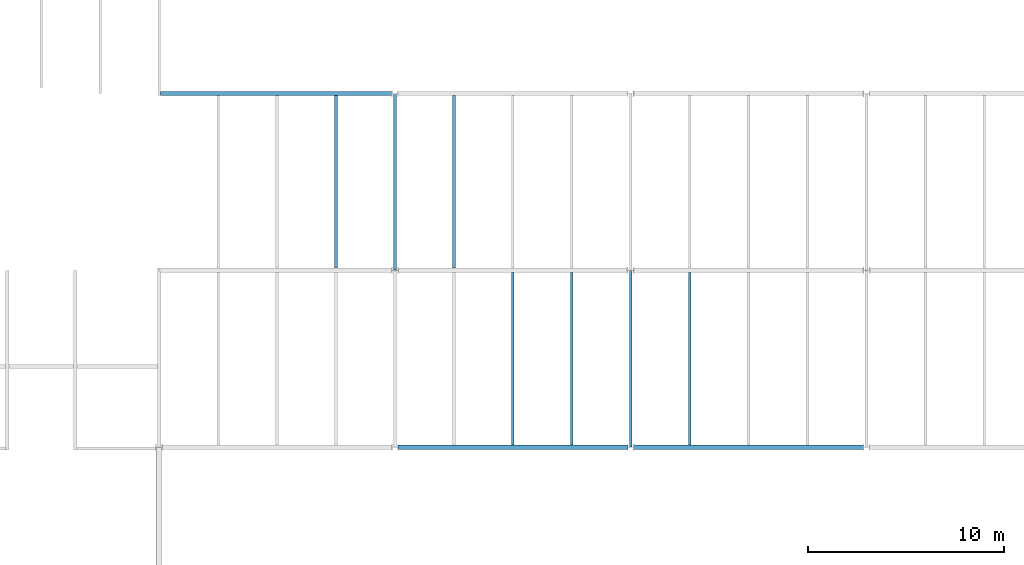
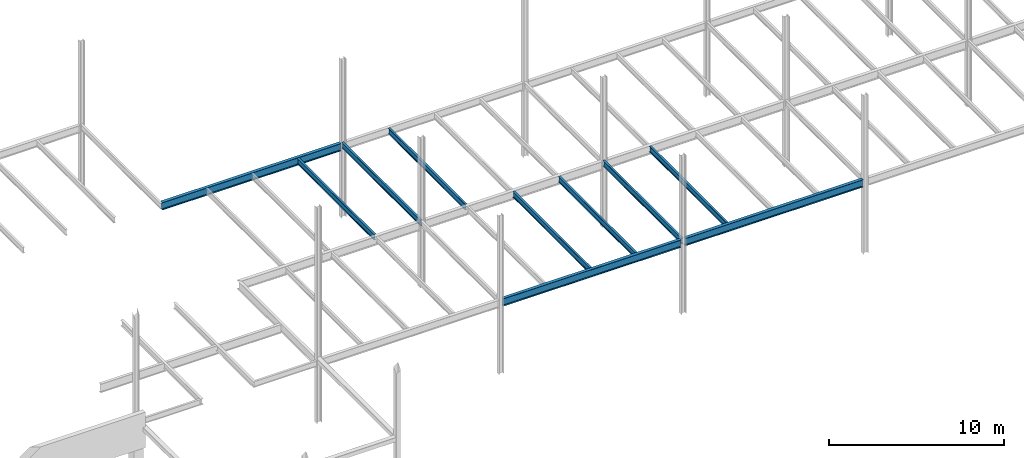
# One storey, part 13 of 19: 10 beams.
"""IFC2X3 building model written with IfcOpenShell, lengths in millimetres."""

from ifc_helpers import new_model, si_unit, origin, place, context, project, spatial, faceted_brep, material, element, save


model = new_model("IFC2X3")

# Units and contexts
context_of_model = context(None, 3, precision=1e-05, world=origin())
ifc_project = project(units=[si_unit("LENGTHUNIT", "METRE", prefix="MILLI")], contexts=[context_of_model])

# Building, storey
building = spatial("IfcBuilding", under=ifc_project, Name="Building", CompositionType="ELEMENT")
storey = spatial("IfcBuildingStorey", under=building, Name="FL2-FRM", CompositionType="ELEMENT")

# Beams
ifc_material_1 = material(Name="A992")
beam_1_placement = place(None, origin())
element("IfcBeam", 1, at=beam_1_placement, inside=storey, material=ifc_material_1, Name="B502", context=context_of_model, shape_type="Brep", body=[
    faceted_brep([(30070.0, 9104.5, 3974.0), (29930.0, 9104.5, 3974.0), (29930.0, 17885.5, 3974.0), (30070.0, 17885.5, 3974.0), (29930.0, 9104.5, 3982.8), (29930.0, 17885.5, 3982.8), (29986.6, 9104.5, 3982.8), (29986.6, 17885.5, 3982.8), (29989.2, 9104.5, 3983.15), (29989.2, 17885.5, 3983.15), (29991.7, 9104.5, 3984.17), (29991.7, 17885.5, 3984.17), (29993.8, 9104.5, 3985.79), (29993.8, 17885.5, 3985.79), (29995.4, 9104.5, 3987.9), (29995.4, 17885.5, 3987.9), (29996.5, 9104.5, 3990.36), (29996.5, 17885.5, 3990.36), (29996.8, 9104.5, 3993.0), (29996.8, 17885.5, 3993.0), (29996.8, 9104.5, 4354.0), (29996.8, 17885.5, 4354.0), (29996.5, 9104.5, 4356.64), (29996.5, 17885.5, 4356.64), (29995.4, 9104.5, 4359.1), (29995.4, 17885.5, 4359.1), (29993.8, 9104.5, 4361.21), (29993.8, 17885.5, 4361.21), (29991.7, 9104.5, 4362.83), (29991.7, 17885.5, 4362.83), (29989.2, 9104.5, 4363.85), (29989.2, 17885.5, 4363.85), (29986.6, 9104.5, 4364.2), (29986.6, 17885.5, 4364.2), (29930.0, 9104.5, 4364.2), (29930.0, 17885.5, 4364.2), (29930.0, 9104.5, 4373.0), (29930.0, 17885.5, 4373.0), (30070.0, 9104.5, 4373.0), (30070.0, 17885.5, 4373.0), (30070.0, 9104.5, 4364.2), (30070.0, 17885.5, 4364.2), (30013.4, 9104.5, 4364.2), (30013.4, 17885.5, 4364.2), (30010.8, 9104.5, 4363.85), (30010.8, 17885.5, 4363.85), (30008.3, 9104.5, 4362.83), (30008.3, 17885.5, 4362.83), (30006.2, 9104.5, 4361.21), (30006.2, 17885.5, 4361.21), (30004.6, 9104.5, 4359.1), (30004.6, 17885.5, 4359.1), (30003.5, 9104.5, 4356.64), (30003.5, 17885.5, 4356.64), (30003.2, 9104.5, 4354.0), (30003.2, 17885.5, 4354.0), (30003.2, 9104.5, 3993.0), (30003.2, 17885.5, 3993.0), (30003.5, 9104.5, 3990.36), (30003.5, 17885.5, 3990.36), (30004.6, 9104.5, 3987.9), (30004.6, 17885.5, 3987.9), (30006.2, 9104.5, 3985.79), (30006.2, 17885.5, 3985.79), (30008.3, 9104.5, 3984.17), (30008.3, 17885.5, 3984.17), (30010.8, 9104.5, 3983.15), (30010.8, 17885.5, 3983.15), (30013.4, 9104.5, 3982.8), (30013.4, 17885.5, 3982.8), (30070.0, 9104.5, 3982.8), (30070.0, 17885.5, 3982.8)], [[[0, 1, 2, 3]], [[1, 4, 5, 2]], [[4, 6, 7, 5]], [[6, 8, 9, 7]], [[8, 10, 11, 9]], [[10, 12, 13, 11]], [[12, 14, 15, 13]], [[14, 16, 17, 15]], [[16, 18, 19, 17]], [[18, 20, 21, 19]], [[20, 22, 23, 21]], [[22, 24, 25, 23]], [[24, 26, 27, 25]], [[26, 28, 29, 27]], [[28, 30, 31, 29]], [[30, 32, 33, 31]], [[32, 34, 35, 33]], [[34, 36, 37, 35]], [[36, 38, 39, 37]], [[38, 40, 41, 39]], [[40, 42, 43, 41]], [[42, 44, 45, 43]], [[44, 46, 47, 45]], [[46, 48, 49, 47]], [[48, 50, 51, 49]], [[50, 52, 53, 51]], [[52, 54, 55, 53]], [[54, 56, 57, 55]], [[56, 58, 59, 57]], [[58, 60, 61, 59]], [[60, 62, 63, 61]], [[62, 64, 65, 63]], [[64, 66, 67, 65]], [[66, 68, 69, 67]], [[68, 70, 71, 69]], [[70, 0, 3, 71]], [[0, 70, 68, 66, 64, 62, 60, 58, 56, 54, 52, 50, 48, 46, 44, 42, 40, 38, 36, 34, 32, 30, 28, 26, 24, 22, 20, 18, 16, 14, 12, 10, 8, 6, 4, 1]], [[3, 2, 5, 7, 9, 11, 13, 15, 17, 19, 21, 23, 25, 27, 29, 31, 33, 35, 37, 39, 41, 43, 45, 47, 49, 51, 53, 55, 57, 59, 61, 63, 65, 67, 69, 71]]]),
])
ifc_material_2 = material(Name="A992")
beam_2_placement = place(None, origin())
element("IfcBeam", 2, at=beam_2_placement, inside=storey, material=ifc_material_2, Name="B503", context=context_of_model, shape_type="Brep", body=[
    faceted_brep([(33070.0, 9104.5, 3974.0), (32930.0, 9104.5, 3974.0), (32930.0, 17885.5, 3974.0), (33070.0, 17885.5, 3974.0), (32930.0, 9104.5, 3982.8), (32930.0, 17885.5, 3982.8), (32986.6, 9104.5, 3982.8), (32986.6, 17885.5, 3982.8), (32989.2, 9104.5, 3983.15), (32989.2, 17885.5, 3983.15), (32991.7, 9104.5, 3984.17), (32991.7, 17885.5, 3984.17), (32993.8, 9104.5, 3985.79), (32993.8, 17885.5, 3985.79), (32995.4, 9104.5, 3987.9), (32995.4, 17885.5, 3987.9), (32996.5, 9104.5, 3990.36), (32996.5, 17885.5, 3990.36), (32996.8, 9104.5, 3993.0), (32996.8, 17885.5, 3993.0), (32996.8, 9104.5, 4354.0), (32996.8, 17885.5, 4354.0), (32996.5, 9104.5, 4356.64), (32996.5, 17885.5, 4356.64), (32995.4, 9104.5, 4359.1), (32995.4, 17885.5, 4359.1), (32993.8, 9104.5, 4361.21), (32993.8, 17885.5, 4361.21), (32991.7, 9104.5, 4362.83), (32991.7, 17885.5, 4362.83), (32989.2, 9104.5, 4363.85), (32989.2, 17885.5, 4363.85), (32986.6, 9104.5, 4364.2), (32986.6, 17885.5, 4364.2), (32930.0, 9104.5, 4364.2), (32930.0, 17885.5, 4364.2), (32930.0, 9104.5, 4373.0), (32930.0, 17885.5, 4373.0), (33070.0, 9104.5, 4373.0), (33070.0, 17885.5, 4373.0), (33070.0, 9104.5, 4364.2), (33070.0, 17885.5, 4364.2), (33013.4, 9104.5, 4364.2), (33013.4, 17885.5, 4364.2), (33010.8, 9104.5, 4363.85), (33010.8, 17885.5, 4363.85), (33008.3, 9104.5, 4362.83), (33008.3, 17885.5, 4362.83), (33006.2, 9104.5, 4361.21), (33006.2, 17885.5, 4361.21), (33004.6, 9104.5, 4359.1), (33004.6, 17885.5, 4359.1), (33003.5, 9104.5, 4356.64), (33003.5, 17885.5, 4356.64), (33003.2, 9104.5, 4354.0), (33003.2, 17885.5, 4354.0), (33003.2, 9104.5, 3993.0), (33003.2, 17885.5, 3993.0), (33003.5, 9104.5, 3990.36), (33003.5, 17885.5, 3990.36), (33004.6, 9104.5, 3987.9), (33004.6, 17885.5, 3987.9), (33006.2, 9104.5, 3985.79), (33006.2, 17885.5, 3985.79), (33008.3, 9104.5, 3984.17), (33008.3, 17885.5, 3984.17), (33010.8, 9104.5, 3983.15), (33010.8, 17885.5, 3983.15), (33013.4, 9104.5, 3982.8), (33013.4, 17885.5, 3982.8), (33070.0, 9104.5, 3982.8), (33070.0, 17885.5, 3982.8)], [[[0, 1, 2, 3]], [[1, 4, 5, 2]], [[4, 6, 7, 5]], [[6, 8, 9, 7]], [[8, 10, 11, 9]], [[10, 12, 13, 11]], [[12, 14, 15, 13]], [[14, 16, 17, 15]], [[16, 18, 19, 17]], [[18, 20, 21, 19]], [[20, 22, 23, 21]], [[22, 24, 25, 23]], [[24, 26, 27, 25]], [[26, 28, 29, 27]], [[28, 30, 31, 29]], [[30, 32, 33, 31]], [[32, 34, 35, 33]], [[34, 36, 37, 35]], [[36, 38, 39, 37]], [[38, 40, 41, 39]], [[40, 42, 43, 41]], [[42, 44, 45, 43]], [[44, 46, 47, 45]], [[46, 48, 49, 47]], [[48, 50, 51, 49]], [[50, 52, 53, 51]], [[52, 54, 55, 53]], [[54, 56, 57, 55]], [[56, 58, 59, 57]], [[58, 60, 61, 59]], [[60, 62, 63, 61]], [[62, 64, 65, 63]], [[64, 66, 67, 65]], [[66, 68, 69, 67]], [[68, 70, 71, 69]], [[70, 0, 3, 71]], [[0, 70, 68, 66, 64, 62, 60, 58, 56, 54, 52, 50, 48, 46, 44, 42, 40, 38, 36, 34, 32, 30, 28, 26, 24, 22, 20, 18, 16, 14, 12, 10, 8, 6, 4, 1]], [[3, 2, 5, 7, 9, 11, 13, 15, 17, 19, 21, 23, 25, 27, 29, 31, 33, 35, 37, 39, 41, 43, 45, 47, 49, 51, 53, 55, 57, 59, 61, 63, 65, 67, 69, 71]]]),
])
ifc_material_3 = material(Name="A992")
beam_3_placement = place(None, origin())
element("IfcBeam", 3, at=beam_3_placement, inside=storey, material=ifc_material_3, Name="B508", context=context_of_model, shape_type="Brep", body=[
    faceted_brep([(39070.0, 9104.5, 3974.0), (38930.0, 9104.5, 3974.0), (38930.0, 17885.5, 3974.0), (39070.0, 17885.5, 3974.0), (38930.0, 9104.5, 3982.8), (38930.0, 17885.5, 3982.8), (38986.6, 9104.5, 3982.8), (38986.6, 17885.5, 3982.8), (38989.2, 9104.5, 3983.15), (38989.2, 17885.5, 3983.15), (38991.7, 9104.5, 3984.17), (38991.7, 17885.5, 3984.17), (38993.8, 9104.5, 3985.79), (38993.8, 17885.5, 3985.79), (38995.4, 9104.5, 3987.9), (38995.4, 17885.5, 3987.9), (38996.5, 9104.5, 3990.36), (38996.5, 17885.5, 3990.36), (38996.8, 9104.5, 3993.0), (38996.8, 17885.5, 3993.0), (38996.8, 9104.5, 4354.0), (38996.8, 17885.5, 4354.0), (38996.5, 9104.5, 4356.64), (38996.5, 17885.5, 4356.64), (38995.4, 9104.5, 4359.1), (38995.4, 17885.5, 4359.1), (38993.8, 9104.5, 4361.21), (38993.8, 17885.5, 4361.21), (38991.7, 9104.5, 4362.83), (38991.7, 17885.5, 4362.83), (38989.2, 9104.5, 4363.85), (38989.2, 17885.5, 4363.85), (38986.6, 9104.5, 4364.2), (38986.6, 17885.5, 4364.2), (38930.0, 9104.5, 4364.2), (38930.0, 17885.5, 4364.2), (38930.0, 9104.5, 4373.0), (38930.0, 17885.5, 4373.0), (39070.0, 9104.5, 4373.0), (39070.0, 17885.5, 4373.0), (39070.0, 9104.5, 4364.2), (39070.0, 17885.5, 4364.2), (39013.4, 9104.5, 4364.2), (39013.4, 17885.5, 4364.2), (39010.8, 9104.5, 4363.85), (39010.8, 17885.5, 4363.85), (39008.3, 9104.5, 4362.83), (39008.3, 17885.5, 4362.83), (39006.2, 9104.5, 4361.21), (39006.2, 17885.5, 4361.21), (39004.6, 9104.5, 4359.1), (39004.6, 17885.5, 4359.1), (39003.5, 9104.5, 4356.64), (39003.5, 17885.5, 4356.64), (39003.2, 9104.5, 4354.0), (39003.2, 17885.5, 4354.0), (39003.2, 9104.5, 3993.0), (39003.2, 17885.5, 3993.0), (39003.5, 9104.5, 3990.36), (39003.5, 17885.5, 3990.36), (39004.6, 9104.5, 3987.9), (39004.6, 17885.5, 3987.9), (39006.2, 9104.5, 3985.79), (39006.2, 17885.5, 3985.79), (39008.3, 9104.5, 3984.17), (39008.3, 17885.5, 3984.17), (39010.8, 9104.5, 3983.15), (39010.8, 17885.5, 3983.15), (39013.4, 9104.5, 3982.8), (39013.4, 17885.5, 3982.8), (39070.0, 9104.5, 3982.8), (39070.0, 17885.5, 3982.8)], [[[0, 1, 2, 3]], [[1, 4, 5, 2]], [[4, 6, 7, 5]], [[6, 8, 9, 7]], [[8, 10, 11, 9]], [[10, 12, 13, 11]], [[12, 14, 15, 13]], [[14, 16, 17, 15]], [[16, 18, 19, 17]], [[18, 20, 21, 19]], [[20, 22, 23, 21]], [[22, 24, 25, 23]], [[24, 26, 27, 25]], [[26, 28, 29, 27]], [[28, 30, 31, 29]], [[30, 32, 33, 31]], [[32, 34, 35, 33]], [[34, 36, 37, 35]], [[36, 38, 39, 37]], [[38, 40, 41, 39]], [[40, 42, 43, 41]], [[42, 44, 45, 43]], [[44, 46, 47, 45]], [[46, 48, 49, 47]], [[48, 50, 51, 49]], [[50, 52, 53, 51]], [[52, 54, 55, 53]], [[54, 56, 57, 55]], [[56, 58, 59, 57]], [[58, 60, 61, 59]], [[60, 62, 63, 61]], [[62, 64, 65, 63]], [[64, 66, 67, 65]], [[66, 68, 69, 67]], [[68, 70, 71, 69]], [[70, 0, 3, 71]], [[0, 70, 68, 66, 64, 62, 60, 58, 56, 54, 52, 50, 48, 46, 44, 42, 40, 38, 36, 34, 32, 30, 28, 26, 24, 22, 20, 18, 16, 14, 12, 10, 8, 6, 4, 1]], [[3, 2, 5, 7, 9, 11, 13, 15, 17, 19, 21, 23, 25, 27, 29, 31, 33, 35, 37, 39, 41, 43, 45, 47, 49, 51, 53, 55, 57, 59, 61, 63, 65, 67, 69, 71]]]),
])
ifc_material_4 = material(Name="A992")
beam_4_placement = place(None, origin())
element("IfcBeam", 4, at=beam_4_placement, inside=storey, material=ifc_material_4, Name="B511", context=context_of_model, shape_type="Brep", body=[
    faceted_brep([(36070.0, 9004.95, 3974.0), (35930.0, 9004.95, 3974.0), (35930.0, 17991.0, 3974.0), (36070.0, 17991.0, 3974.0), (35930.0, 9004.95, 3982.8), (35930.0, 17991.0, 3982.8), (35986.6, 9004.95, 3982.8), (35986.6, 17991.0, 3982.8), (35989.2, 9004.95, 3983.15), (35989.2, 17991.0, 3983.15), (35991.7, 9004.95, 3984.17), (35991.7, 17991.0, 3984.17), (35993.8, 9004.95, 3985.79), (35993.8, 17991.0, 3985.79), (35995.4, 9004.95, 3987.9), (35995.4, 17991.0, 3987.9), (35996.5, 9004.95, 3990.36), (35996.5, 17991.0, 3990.36), (35996.8, 9004.95, 3993.0), (35996.8, 17991.0, 3993.0), (35996.8, 9004.95, 4354.0), (35996.8, 17991.0, 4354.0), (35996.5, 9004.95, 4356.64), (35996.5, 17991.0, 4356.64), (35995.4, 9004.95, 4359.1), (35995.4, 17991.0, 4359.1), (35993.8, 9004.95, 4361.21), (35993.8, 17991.0, 4361.21), (35991.7, 9004.95, 4362.83), (35991.7, 17991.0, 4362.83), (35989.2, 9004.95, 4363.85), (35989.2, 17991.0, 4363.85), (35986.6, 9004.95, 4364.2), (35986.6, 17991.0, 4364.2), (35930.0, 9004.95, 4364.2), (35930.0, 17991.0, 4364.2), (35930.0, 9004.95, 4373.0), (35930.0, 17991.0, 4373.0), (36070.0, 9004.95, 4373.0), (36070.0, 17991.0, 4373.0), (36070.0, 9004.95, 4364.2), (36070.0, 17991.0, 4364.2), (36013.4, 9004.95, 4364.2), (36013.4, 17991.0, 4364.2), (36010.8, 9004.95, 4363.85), (36010.8, 17991.0, 4363.85), (36008.3, 9004.95, 4362.83), (36008.3, 17991.0, 4362.83), (36006.2, 9004.95, 4361.21), (36006.2, 17991.0, 4361.21), (36004.6, 9004.95, 4359.1), (36004.6, 17991.0, 4359.1), (36003.5, 9004.95, 4356.64), (36003.5, 17991.0, 4356.64), (36003.2, 9004.95, 4354.0), (36003.2, 17991.0, 4354.0), (36003.2, 9004.95, 3993.0), (36003.2, 17991.0, 3993.0), (36003.5, 9004.95, 3990.36), (36003.5, 17991.0, 3990.36), (36004.6, 9004.95, 3987.9), (36004.6, 17991.0, 3987.9), (36006.2, 9004.95, 3985.79), (36006.2, 17991.0, 3985.79), (36008.3, 9004.95, 3984.17), (36008.3, 17991.0, 3984.17), (36010.8, 9004.95, 3983.15), (36010.8, 17991.0, 3983.15), (36013.4, 9004.95, 3982.8), (36013.4, 17991.0, 3982.8), (36070.0, 9004.95, 3982.8), (36070.0, 17991.0, 3982.8)], [[[0, 1, 2, 3]], [[1, 4, 5, 2]], [[4, 6, 7, 5]], [[6, 8, 9, 7]], [[8, 10, 11, 9]], [[10, 12, 13, 11]], [[12, 14, 15, 13]], [[14, 16, 17, 15]], [[16, 18, 19, 17]], [[18, 20, 21, 19]], [[20, 22, 23, 21]], [[22, 24, 25, 23]], [[24, 26, 27, 25]], [[26, 28, 29, 27]], [[28, 30, 31, 29]], [[30, 32, 33, 31]], [[32, 34, 35, 33]], [[34, 36, 37, 35]], [[36, 38, 39, 37]], [[38, 40, 41, 39]], [[40, 42, 43, 41]], [[42, 44, 45, 43]], [[44, 46, 47, 45]], [[46, 48, 49, 47]], [[48, 50, 51, 49]], [[50, 52, 53, 51]], [[52, 54, 55, 53]], [[54, 56, 57, 55]], [[56, 58, 59, 57]], [[58, 60, 61, 59]], [[60, 62, 63, 61]], [[62, 64, 65, 63]], [[64, 66, 67, 65]], [[66, 68, 69, 67]], [[68, 70, 71, 69]], [[70, 0, 3, 71]], [[0, 70, 68, 66, 64, 62, 60, 58, 56, 54, 52, 50, 48, 46, 44, 42, 40, 38, 36, 34, 32, 30, 28, 26, 24, 22, 20, 18, 16, 14, 12, 10, 8, 6, 4, 1]], [[3, 2, 5, 7, 9, 11, 13, 15, 17, 19, 21, 23, 25, 27, 29, 31, 33, 35, 37, 39, 41, 43, 45, 47, 49, 51, 53, 55, 57, 59, 61, 63, 65, 67, 69, 71]]]),
])
ifc_material_5 = material(Name="A992")
beam_5_placement = place(None, origin())
element("IfcBeam", 5, at=beam_5_placement, inside=storey, material=ifc_material_5, Name="B524", context=context_of_model, shape_type="Brep", body=[
    faceted_brep([(26930.0, 26895.5, 3974.0), (27070.0, 26895.5, 3974.0), (27070.0, 18114.5, 3974.0), (26930.0, 18114.5, 3974.0), (27070.0, 26895.5, 3982.8), (27070.0, 18114.5, 3982.8), (27013.4, 26895.5, 3982.8), (27013.4, 18114.5, 3982.8), (27010.8, 26895.5, 3983.15), (27010.8, 18114.5, 3983.15), (27008.3, 26895.5, 3984.17), (27008.3, 18114.5, 3984.17), (27006.2, 26895.5, 3985.79), (27006.2, 18114.5, 3985.79), (27004.6, 26895.5, 3987.9), (27004.6, 18114.5, 3987.9), (27003.5, 26895.5, 3990.36), (27003.5, 18114.5, 3990.36), (27003.2, 26895.5, 3993.0), (27003.2, 18114.5, 3993.0), (27003.2, 26895.5, 4354.0), (27003.2, 18114.5, 4354.0), (27003.5, 26895.5, 4356.64), (27003.5, 18114.5, 4356.64), (27004.6, 26895.5, 4359.1), (27004.6, 18114.5, 4359.1), (27006.2, 26895.5, 4361.21), (27006.2, 18114.5, 4361.21), (27008.3, 26895.5, 4362.83), (27008.3, 18114.5, 4362.83), (27010.8, 26895.5, 4363.85), (27010.8, 18114.5, 4363.85), (27013.4, 26895.5, 4364.2), (27013.4, 18114.5, 4364.2), (27070.0, 26895.5, 4364.2), (27070.0, 18114.5, 4364.2), (27070.0, 26895.5, 4373.0), (27070.0, 18114.5, 4373.0), (26930.0, 26895.5, 4373.0), (26930.0, 18114.5, 4373.0), (26930.0, 26895.5, 4364.2), (26930.0, 18114.5, 4364.2), (26986.6, 26895.5, 4364.2), (26986.6, 18114.5, 4364.2), (26989.2, 26895.5, 4363.85), (26989.2, 18114.5, 4363.85), (26991.7, 26895.5, 4362.83), (26991.7, 18114.5, 4362.83), (26993.8, 26895.5, 4361.21), (26993.8, 18114.5, 4361.21), (26995.4, 26895.5, 4359.1), (26995.4, 18114.5, 4359.1), (26996.5, 26895.5, 4356.64), (26996.5, 18114.5, 4356.64), (26996.8, 26895.5, 4354.0), (26996.8, 18114.5, 4354.0), (26996.8, 26895.5, 3993.0), (26996.8, 18114.5, 3993.0), (26996.5, 26895.5, 3990.36), (26996.5, 18114.5, 3990.36), (26995.4, 26895.5, 3987.9), (26995.4, 18114.5, 3987.9), (26993.8, 26895.5, 3985.79), (26993.8, 18114.5, 3985.79), (26991.7, 26895.5, 3984.17), (26991.7, 18114.5, 3984.17), (26989.2, 26895.5, 3983.15), (26989.2, 18114.5, 3983.15), (26986.6, 26895.5, 3982.8), (26986.6, 18114.5, 3982.8), (26930.0, 26895.5, 3982.8), (26930.0, 18114.5, 3982.8)], [[[0, 1, 2, 3]], [[1, 4, 5, 2]], [[4, 6, 7, 5]], [[6, 8, 9, 7]], [[8, 10, 11, 9]], [[10, 12, 13, 11]], [[12, 14, 15, 13]], [[14, 16, 17, 15]], [[16, 18, 19, 17]], [[18, 20, 21, 19]], [[20, 22, 23, 21]], [[22, 24, 25, 23]], [[24, 26, 27, 25]], [[26, 28, 29, 27]], [[28, 30, 31, 29]], [[30, 32, 33, 31]], [[32, 34, 35, 33]], [[34, 36, 37, 35]], [[36, 38, 39, 37]], [[38, 40, 41, 39]], [[40, 42, 43, 41]], [[42, 44, 45, 43]], [[44, 46, 47, 45]], [[46, 48, 49, 47]], [[48, 50, 51, 49]], [[50, 52, 53, 51]], [[52, 54, 55, 53]], [[54, 56, 57, 55]], [[56, 58, 59, 57]], [[58, 60, 61, 59]], [[60, 62, 63, 61]], [[62, 64, 65, 63]], [[64, 66, 67, 65]], [[66, 68, 69, 67]], [[68, 70, 71, 69]], [[70, 0, 3, 71]], [[0, 70, 68, 66, 64, 62, 60, 58, 56, 54, 52, 50, 48, 46, 44, 42, 40, 38, 36, 34, 32, 30, 28, 26, 24, 22, 20, 18, 16, 14, 12, 10, 8, 6, 4, 1]], [[3, 2, 5, 7, 9, 11, 13, 15, 17, 19, 21, 23, 25, 27, 29, 31, 33, 35, 37, 39, 41, 43, 45, 47, 49, 51, 53, 55, 57, 59, 61, 63, 65, 67, 69, 71]]]),
])
ifc_material_6 = material(Name="A992")
beam_6_placement = place(None, origin())
element("IfcBeam", 6, at=beam_6_placement, inside=storey, material=ifc_material_6, Name="B527", context=context_of_model, shape_type="Brep", body=[
    faceted_brep([(24070.0, 18009.0, 3974.0), (23930.0, 18009.0, 3974.0), (23930.0, 26995.1, 3974.0), (24070.0, 26995.1, 3974.0), (23930.0, 18009.0, 3982.8), (23930.0, 26995.1, 3982.8), (23986.6, 18009.0, 3982.8), (23986.6, 26995.1, 3982.8), (23989.2, 18009.0, 3983.15), (23989.2, 26995.1, 3983.15), (23991.7, 18009.0, 3984.17), (23991.7, 26995.1, 3984.17), (23993.8, 18009.0, 3985.79), (23993.8, 26995.1, 3985.79), (23995.4, 18009.0, 3987.9), (23995.4, 26995.1, 3987.9), (23996.5, 18009.0, 3990.36), (23996.5, 26995.1, 3990.36), (23996.8, 18009.0, 3993.0), (23996.8, 26995.1, 3993.0), (23996.8, 18009.0, 4354.0), (23996.8, 26995.1, 4354.0), (23996.5, 18009.0, 4356.64), (23996.5, 26995.1, 4356.64), (23995.4, 18009.0, 4359.1), (23995.4, 26995.1, 4359.1), (23993.8, 18009.0, 4361.21), (23993.8, 26995.1, 4361.21), (23991.7, 18009.0, 4362.83), (23991.7, 26995.1, 4362.83), (23989.2, 18009.0, 4363.85), (23989.2, 26995.1, 4363.85), (23986.6, 18009.0, 4364.2), (23986.6, 26995.1, 4364.2), (23930.0, 18009.0, 4364.2), (23930.0, 26995.1, 4364.2), (23930.0, 18009.0, 4373.0), (23930.0, 26995.1, 4373.0), (24070.0, 18009.0, 4373.0), (24070.0, 26995.1, 4373.0), (24070.0, 18009.0, 4364.2), (24070.0, 26995.1, 4364.2), (24013.4, 18009.0, 4364.2), (24013.4, 26995.1, 4364.2), (24010.8, 18009.0, 4363.85), (24010.8, 26995.1, 4363.85), (24008.3, 18009.0, 4362.83), (24008.3, 26995.1, 4362.83), (24006.2, 18009.0, 4361.21), (24006.2, 26995.1, 4361.21), (24004.6, 18009.0, 4359.1), (24004.6, 26995.1, 4359.1), (24003.5, 18009.0, 4356.64), (24003.5, 26995.1, 4356.64), (24003.2, 18009.0, 4354.0), (24003.2, 26995.1, 4354.0), (24003.2, 18009.0, 3993.0), (24003.2, 26995.1, 3993.0), (24003.5, 18009.0, 3990.36), (24003.5, 26995.1, 3990.36), (24004.6, 18009.0, 3987.9), (24004.6, 26995.1, 3987.9), (24006.2, 18009.0, 3985.79), (24006.2, 26995.1, 3985.79), (24008.3, 18009.0, 3984.17), (24008.3, 26995.1, 3984.17), (24010.8, 18009.0, 3983.15), (24010.8, 26995.1, 3983.15), (24013.4, 18009.0, 3982.8), (24013.4, 26995.1, 3982.8), (24070.0, 18009.0, 3982.8), (24070.0, 26995.1, 3982.8)], [[[0, 1, 2, 3]], [[1, 4, 5, 2]], [[4, 6, 7, 5]], [[6, 8, 9, 7]], [[8, 10, 11, 9]], [[10, 12, 13, 11]], [[12, 14, 15, 13]], [[14, 16, 17, 15]], [[16, 18, 19, 17]], [[18, 20, 21, 19]], [[20, 22, 23, 21]], [[22, 24, 25, 23]], [[24, 26, 27, 25]], [[26, 28, 29, 27]], [[28, 30, 31, 29]], [[30, 32, 33, 31]], [[32, 34, 35, 33]], [[34, 36, 37, 35]], [[36, 38, 39, 37]], [[38, 40, 41, 39]], [[40, 42, 43, 41]], [[42, 44, 45, 43]], [[44, 46, 47, 45]], [[46, 48, 49, 47]], [[48, 50, 51, 49]], [[50, 52, 53, 51]], [[52, 54, 55, 53]], [[54, 56, 57, 55]], [[56, 58, 59, 57]], [[58, 60, 61, 59]], [[60, 62, 63, 61]], [[62, 64, 65, 63]], [[64, 66, 67, 65]], [[66, 68, 69, 67]], [[68, 70, 71, 69]], [[70, 0, 3, 71]], [[0, 70, 68, 66, 64, 62, 60, 58, 56, 54, 52, 50, 48, 46, 44, 42, 40, 38, 36, 34, 32, 30, 28, 26, 24, 22, 20, 18, 16, 14, 12, 10, 8, 6, 4, 1]], [[3, 2, 5, 7, 9, 11, 13, 15, 17, 19, 21, 23, 25, 27, 29, 31, 33, 35, 37, 39, 41, 43, 45, 47, 49, 51, 53, 55, 57, 59, 61, 63, 65, 67, 69, 71]]]),
])
ifc_material_7 = material(Name="A992")
beam_7_placement = place(None, origin())
element("IfcBeam", 7, at=beam_7_placement, inside=storey, material=ifc_material_7, Name="B530", context=context_of_model, shape_type="Brep", body=[
    faceted_brep([(20930.0, 26895.5, 3974.0), (21070.0, 26895.5, 3974.0), (21070.0, 18114.5, 3974.0), (20930.0, 18114.5, 3974.0), (21070.0, 26895.5, 3982.8), (21070.0, 18114.5, 3982.8), (21013.4, 26895.5, 3982.8), (21013.4, 18114.5, 3982.8), (21010.8, 26895.5, 3983.15), (21010.8, 18114.5, 3983.15), (21008.3, 26895.5, 3984.17), (21008.3, 18114.5, 3984.17), (21006.2, 26895.5, 3985.79), (21006.2, 18114.5, 3985.79), (21004.6, 26895.5, 3987.9), (21004.6, 18114.5, 3987.9), (21003.5, 26895.5, 3990.36), (21003.5, 18114.5, 3990.36), (21003.2, 26895.5, 3993.0), (21003.2, 18114.5, 3993.0), (21003.2, 26895.5, 4354.0), (21003.2, 18114.5, 4354.0), (21003.5, 26895.5, 4356.64), (21003.5, 18114.5, 4356.64), (21004.6, 26895.5, 4359.1), (21004.6, 18114.5, 4359.1), (21006.2, 26895.5, 4361.21), (21006.2, 18114.5, 4361.21), (21008.3, 26895.5, 4362.83), (21008.3, 18114.5, 4362.83), (21010.8, 26895.5, 4363.85), (21010.8, 18114.5, 4363.85), (21013.4, 26895.5, 4364.2), (21013.4, 18114.5, 4364.2), (21070.0, 26895.5, 4364.2), (21070.0, 18114.5, 4364.2), (21070.0, 26895.5, 4373.0), (21070.0, 18114.5, 4373.0), (20930.0, 26895.5, 4373.0), (20930.0, 18114.5, 4373.0), (20930.0, 26895.5, 4364.2), (20930.0, 18114.5, 4364.2), (20986.6, 26895.5, 4364.2), (20986.6, 18114.5, 4364.2), (20989.2, 26895.5, 4363.85), (20989.2, 18114.5, 4363.85), (20991.7, 26895.5, 4362.83), (20991.7, 18114.5, 4362.83), (20993.8, 26895.5, 4361.21), (20993.8, 18114.5, 4361.21), (20995.4, 26895.5, 4359.1), (20995.4, 18114.5, 4359.1), (20996.5, 26895.5, 4356.64), (20996.5, 18114.5, 4356.64), (20996.8, 26895.5, 4354.0), (20996.8, 18114.5, 4354.0), (20996.8, 26895.5, 3993.0), (20996.8, 18114.5, 3993.0), (20996.5, 26895.5, 3990.36), (20996.5, 18114.5, 3990.36), (20995.4, 26895.5, 3987.9), (20995.4, 18114.5, 3987.9), (20993.8, 26895.5, 3985.79), (20993.8, 18114.5, 3985.79), (20991.7, 26895.5, 3984.17), (20991.7, 18114.5, 3984.17), (20989.2, 26895.5, 3983.15), (20989.2, 18114.5, 3983.15), (20986.6, 26895.5, 3982.8), (20986.6, 18114.5, 3982.8), (20930.0, 26895.5, 3982.8), (20930.0, 18114.5, 3982.8)], [[[0, 1, 2, 3]], [[1, 4, 5, 2]], [[4, 6, 7, 5]], [[6, 8, 9, 7]], [[8, 10, 11, 9]], [[10, 12, 13, 11]], [[12, 14, 15, 13]], [[14, 16, 17, 15]], [[16, 18, 19, 17]], [[18, 20, 21, 19]], [[20, 22, 23, 21]], [[22, 24, 25, 23]], [[24, 26, 27, 25]], [[26, 28, 29, 27]], [[28, 30, 31, 29]], [[30, 32, 33, 31]], [[32, 34, 35, 33]], [[34, 36, 37, 35]], [[36, 38, 39, 37]], [[38, 40, 41, 39]], [[40, 42, 43, 41]], [[42, 44, 45, 43]], [[44, 46, 47, 45]], [[46, 48, 49, 47]], [[48, 50, 51, 49]], [[50, 52, 53, 51]], [[52, 54, 55, 53]], [[54, 56, 57, 55]], [[56, 58, 59, 57]], [[58, 60, 61, 59]], [[60, 62, 63, 61]], [[62, 64, 65, 63]], [[64, 66, 67, 65]], [[66, 68, 69, 67]], [[68, 70, 71, 69]], [[70, 0, 3, 71]], [[0, 70, 68, 66, 64, 62, 60, 58, 56, 54, 52, 50, 48, 46, 44, 42, 40, 38, 36, 34, 32, 30, 28, 26, 24, 22, 20, 18, 16, 14, 12, 10, 8, 6, 4, 1]], [[3, 2, 5, 7, 9, 11, 13, 15, 17, 19, 21, 23, 25, 27, 29, 31, 33, 35, 37, 39, 41, 43, 45, 47, 49, 51, 53, 55, 57, 59, 61, 63, 65, 67, 69, 71]]]),
])
ifc_material_8 = material(Name="A992")
beam_8_placement = place(None, origin())
element("IfcBeam", 8, at=beam_8_placement, inside=storey, material=ifc_material_8, Name="Column502", context=context_of_model, shape_type="Brep", body=[
    faceted_brep([(36154.0, 8895.5, 3845.0), (36154.0, 9104.5, 3845.0), (47846.0, 9104.5, 3845.0), (47846.0, 8895.5, 3845.0), (36154.0, 9104.5, 3858.3), (47846.0, 9104.5, 3858.3), (36154.0, 9017.45, 3858.3), (47846.0, 9017.45, 3858.3), (36154.0, 9014.16, 3858.73), (47846.0, 9014.16, 3858.73), (36154.0, 9011.1, 3860.0), (47846.0, 9011.1, 3860.0), (36154.0, 9008.47, 3862.02), (47846.0, 9008.47, 3862.02), (36154.0, 9006.45, 3864.65), (47846.0, 9006.45, 3864.65), (36154.0, 9005.18, 3867.71), (47846.0, 9005.18, 3867.71), (36154.0, 9004.75, 3871.0), (47846.0, 9004.75, 3871.0), (36154.0, 9004.75, 4347.0), (47846.0, 9004.75, 4347.0), (36154.0, 9005.18, 4350.29), (47846.0, 9005.18, 4350.29), (36154.0, 9006.45, 4353.35), (47846.0, 9006.45, 4353.35), (36154.0, 9008.47, 4355.98), (47846.0, 9008.47, 4355.98), (36154.0, 9011.1, 4358.0), (47846.0, 9011.1, 4358.0), (36154.0, 9014.16, 4359.27), (47846.0, 9014.16, 4359.27), (36154.0, 9017.45, 4359.7), (47846.0, 9017.45, 4359.7), (36154.0, 9104.5, 4359.7), (47846.0, 9104.5, 4359.7), (36154.0, 9104.5, 4373.0), (47846.0, 9104.5, 4373.0), (36154.0, 8895.5, 4373.0), (47846.0, 8895.5, 4373.0), (36154.0, 8895.5, 4359.7), (47846.0, 8895.5, 4359.7), (36154.0, 8982.55, 4359.7), (47846.0, 8982.55, 4359.7), (36154.0, 8985.84, 4359.27), (47846.0, 8985.84, 4359.27), (36154.0, 8988.9, 4358.0), (47846.0, 8988.9, 4358.0), (36154.0, 8991.53, 4355.98), (47846.0, 8991.53, 4355.98), (36154.0, 8993.55, 4353.35), (47846.0, 8993.55, 4353.35), (36154.0, 8994.82, 4350.29), (47846.0, 8994.82, 4350.29), (36154.0, 8995.25, 4347.0), (47846.0, 8995.25, 4347.0), (36154.0, 8995.25, 3871.0), (47846.0, 8995.25, 3871.0), (36154.0, 8994.82, 3867.71), (47846.0, 8994.82, 3867.71), (36154.0, 8993.55, 3864.65), (47846.0, 8993.55, 3864.65), (36154.0, 8991.53, 3862.02), (47846.0, 8991.53, 3862.02), (36154.0, 8988.9, 3860.0), (47846.0, 8988.9, 3860.0), (36154.0, 8985.84, 3858.73), (47846.0, 8985.84, 3858.73), (36154.0, 8982.55, 3858.3), (47846.0, 8982.55, 3858.3), (36154.0, 8895.5, 3858.3), (47846.0, 8895.5, 3858.3)], [[[0, 1, 2, 3]], [[1, 4, 5, 2]], [[4, 6, 7, 5]], [[6, 8, 9, 7]], [[8, 10, 11, 9]], [[10, 12, 13, 11]], [[12, 14, 15, 13]], [[14, 16, 17, 15]], [[16, 18, 19, 17]], [[18, 20, 21, 19]], [[20, 22, 23, 21]], [[22, 24, 25, 23]], [[24, 26, 27, 25]], [[26, 28, 29, 27]], [[28, 30, 31, 29]], [[30, 32, 33, 31]], [[32, 34, 35, 33]], [[34, 36, 37, 35]], [[36, 38, 39, 37]], [[38, 40, 41, 39]], [[40, 42, 43, 41]], [[42, 44, 45, 43]], [[44, 46, 47, 45]], [[46, 48, 49, 47]], [[48, 50, 51, 49]], [[50, 52, 53, 51]], [[52, 54, 55, 53]], [[54, 56, 57, 55]], [[56, 58, 59, 57]], [[58, 60, 61, 59]], [[60, 62, 63, 61]], [[62, 64, 65, 63]], [[64, 66, 67, 65]], [[66, 68, 69, 67]], [[68, 70, 71, 69]], [[70, 0, 3, 71]], [[0, 70, 68, 66, 64, 62, 60, 58, 56, 54, 52, 50, 48, 46, 44, 42, 40, 38, 36, 34, 32, 30, 28, 26, 24, 22, 20, 18, 16, 14, 12, 10, 8, 6, 4, 1]], [[3, 2, 5, 7, 9, 11, 13, 15, 17, 19, 21, 23, 25, 27, 29, 31, 33, 35, 37, 39, 41, 43, 45, 47, 49, 51, 53, 55, 57, 59, 61, 63, 65, 67, 69, 71]]]),
])
ifc_material_9 = material(Name="A992")
beam_9_placement = place(None, origin())
element("IfcBeam", 9, at=beam_9_placement, inside=storey, material=ifc_material_9, Name="Column504", context=context_of_model, shape_type="Brep", body=[
    faceted_brep([(24154.0, 8895.5, 3845.0), (24154.0, 9104.5, 3845.0), (35846.0, 9104.5, 3845.0), (35846.0, 8895.5, 3845.0), (24154.0, 9104.5, 3858.3), (35846.0, 9104.5, 3858.3), (24154.0, 9017.45, 3858.3), (35846.0, 9017.45, 3858.3), (24154.0, 9014.16, 3858.73), (35846.0, 9014.16, 3858.73), (24154.0, 9011.1, 3860.0), (35846.0, 9011.1, 3860.0), (24154.0, 9008.47, 3862.02), (35846.0, 9008.47, 3862.02), (24154.0, 9006.45, 3864.65), (35846.0, 9006.45, 3864.65), (24154.0, 9005.18, 3867.71), (35846.0, 9005.18, 3867.71), (24154.0, 9004.75, 3871.0), (35846.0, 9004.75, 3871.0), (24154.0, 9004.75, 4347.0), (35846.0, 9004.75, 4347.0), (24154.0, 9005.18, 4350.29), (35846.0, 9005.18, 4350.29), (24154.0, 9006.45, 4353.35), (35846.0, 9006.45, 4353.35), (24154.0, 9008.47, 4355.98), (35846.0, 9008.47, 4355.98), (24154.0, 9011.1, 4358.0), (35846.0, 9011.1, 4358.0), (24154.0, 9014.16, 4359.27), (35846.0, 9014.16, 4359.27), (24154.0, 9017.45, 4359.7), (35846.0, 9017.45, 4359.7), (24154.0, 9104.5, 4359.7), (35846.0, 9104.5, 4359.7), (24154.0, 9104.5, 4373.0), (35846.0, 9104.5, 4373.0), (24154.0, 8895.5, 4373.0), (35846.0, 8895.5, 4373.0), (24154.0, 8895.5, 4359.7), (35846.0, 8895.5, 4359.7), (24154.0, 8982.55, 4359.7), (35846.0, 8982.55, 4359.7), (24154.0, 8985.84, 4359.27), (35846.0, 8985.84, 4359.27), (24154.0, 8988.9, 4358.0), (35846.0, 8988.9, 4358.0), (24154.0, 8991.53, 4355.98), (35846.0, 8991.53, 4355.98), (24154.0, 8993.55, 4353.35), (35846.0, 8993.55, 4353.35), (24154.0, 8994.82, 4350.29), (35846.0, 8994.82, 4350.29), (24154.0, 8995.25, 4347.0), (35846.0, 8995.25, 4347.0), (24154.0, 8995.25, 3871.0), (35846.0, 8995.25, 3871.0), (24154.0, 8994.82, 3867.71), (35846.0, 8994.82, 3867.71), (24154.0, 8993.55, 3864.65), (35846.0, 8993.55, 3864.65), (24154.0, 8991.53, 3862.02), (35846.0, 8991.53, 3862.02), (24154.0, 8988.9, 3860.0), (35846.0, 8988.9, 3860.0), (24154.0, 8985.84, 3858.73), (35846.0, 8985.84, 3858.73), (24154.0, 8982.55, 3858.3), (35846.0, 8982.55, 3858.3), (24154.0, 8895.5, 3858.3), (35846.0, 8895.5, 3858.3)], [[[0, 1, 2, 3]], [[1, 4, 5, 2]], [[4, 6, 7, 5]], [[6, 8, 9, 7]], [[8, 10, 11, 9]], [[10, 12, 13, 11]], [[12, 14, 15, 13]], [[14, 16, 17, 15]], [[16, 18, 19, 17]], [[18, 20, 21, 19]], [[20, 22, 23, 21]], [[22, 24, 25, 23]], [[24, 26, 27, 25]], [[26, 28, 29, 27]], [[28, 30, 31, 29]], [[30, 32, 33, 31]], [[32, 34, 35, 33]], [[34, 36, 37, 35]], [[36, 38, 39, 37]], [[38, 40, 41, 39]], [[40, 42, 43, 41]], [[42, 44, 45, 43]], [[44, 46, 47, 45]], [[46, 48, 49, 47]], [[48, 50, 51, 49]], [[50, 52, 53, 51]], [[52, 54, 55, 53]], [[54, 56, 57, 55]], [[56, 58, 59, 57]], [[58, 60, 61, 59]], [[60, 62, 63, 61]], [[62, 64, 65, 63]], [[64, 66, 67, 65]], [[66, 68, 69, 67]], [[68, 70, 71, 69]], [[70, 0, 3, 71]], [[0, 70, 68, 66, 64, 62, 60, 58, 56, 54, 52, 50, 48, 46, 44, 42, 40, 38, 36, 34, 32, 30, 28, 26, 24, 22, 20, 18, 16, 14, 12, 10, 8, 6, 4, 1]], [[3, 2, 5, 7, 9, 11, 13, 15, 17, 19, 21, 23, 25, 27, 29, 31, 33, 35, 37, 39, 41, 43, 45, 47, 49, 51, 53, 55, 57, 59, 61, 63, 65, 67, 69, 71]]]),
])
ifc_material_10 = material(Name="A992")
beam_10_placement = place(None, origin())
element("IfcBeam", 10, at=beam_10_placement, inside=storey, material=ifc_material_10, Name="Column510", context=context_of_model, shape_type="Brep", body=[
    faceted_brep([(12070.0, 26895.5, 3845.0), (12070.0, 27104.5, 3845.0), (23846.0, 27104.5, 3845.0), (23846.0, 26895.5, 3845.0), (12070.0, 27104.5, 3858.3), (23846.0, 27104.5, 3858.3), (12070.0, 27017.4, 3858.3), (23846.0, 27017.4, 3858.3), (12070.0, 27014.2, 3858.73), (23846.0, 27014.2, 3858.73), (12070.0, 27011.1, 3860.0), (23846.0, 27011.1, 3860.0), (12070.0, 27008.5, 3862.02), (23846.0, 27008.5, 3862.02), (12070.0, 27006.5, 3864.65), (23846.0, 27006.5, 3864.65), (12070.0, 27005.2, 3867.71), (23846.0, 27005.2, 3867.71), (12070.0, 27004.8, 3871.0), (23846.0, 27004.8, 3871.0), (12070.0, 27004.8, 4347.0), (23846.0, 27004.8, 4347.0), (12070.0, 27005.2, 4350.29), (23846.0, 27005.2, 4350.29), (12070.0, 27006.5, 4353.35), (23846.0, 27006.5, 4353.35), (12070.0, 27008.5, 4355.98), (23846.0, 27008.5, 4355.98), (12070.0, 27011.1, 4358.0), (23846.0, 27011.1, 4358.0), (12070.0, 27014.2, 4359.27), (23846.0, 27014.2, 4359.27), (12070.0, 27017.4, 4359.7), (23846.0, 27017.4, 4359.7), (12070.0, 27104.5, 4359.7), (23846.0, 27104.5, 4359.7), (12070.0, 27104.5, 4373.0), (23846.0, 27104.5, 4373.0), (12070.0, 26895.5, 4373.0), (23846.0, 26895.5, 4373.0), (12070.0, 26895.5, 4359.7), (23846.0, 26895.5, 4359.7), (12070.0, 26982.6, 4359.7), (23846.0, 26982.6, 4359.7), (12070.0, 26985.8, 4359.27), (23846.0, 26985.8, 4359.27), (12070.0, 26988.9, 4358.0), (23846.0, 26988.9, 4358.0), (12070.0, 26991.5, 4355.98), (23846.0, 26991.5, 4355.98), (12070.0, 26993.5, 4353.35), (23846.0, 26993.5, 4353.35), (12070.0, 26994.8, 4350.29), (23846.0, 26994.8, 4350.29), (12070.0, 26995.3, 4347.0), (23846.0, 26995.3, 4347.0), (12070.0, 26995.3, 3871.0), (23846.0, 26995.3, 3871.0), (12070.0, 26994.8, 3867.71), (23846.0, 26994.8, 3867.71), (12070.0, 26993.5, 3864.65), (23846.0, 26993.5, 3864.65), (12070.0, 26991.5, 3862.02), (23846.0, 26991.5, 3862.02), (12070.0, 26988.9, 3860.0), (23846.0, 26988.9, 3860.0), (12070.0, 26985.8, 3858.73), (23846.0, 26985.8, 3858.73), (12070.0, 26982.6, 3858.3), (23846.0, 26982.6, 3858.3), (12070.0, 26895.5, 3858.3), (23846.0, 26895.5, 3858.3)], [[[0, 1, 2, 3]], [[1, 4, 5, 2]], [[4, 6, 7, 5]], [[6, 8, 9, 7]], [[8, 10, 11, 9]], [[10, 12, 13, 11]], [[12, 14, 15, 13]], [[14, 16, 17, 15]], [[16, 18, 19, 17]], [[18, 20, 21, 19]], [[20, 22, 23, 21]], [[22, 24, 25, 23]], [[24, 26, 27, 25]], [[26, 28, 29, 27]], [[28, 30, 31, 29]], [[30, 32, 33, 31]], [[32, 34, 35, 33]], [[34, 36, 37, 35]], [[36, 38, 39, 37]], [[38, 40, 41, 39]], [[40, 42, 43, 41]], [[42, 44, 45, 43]], [[44, 46, 47, 45]], [[46, 48, 49, 47]], [[48, 50, 51, 49]], [[50, 52, 53, 51]], [[52, 54, 55, 53]], [[54, 56, 57, 55]], [[56, 58, 59, 57]], [[58, 60, 61, 59]], [[60, 62, 63, 61]], [[62, 64, 65, 63]], [[64, 66, 67, 65]], [[66, 68, 69, 67]], [[68, 70, 71, 69]], [[70, 0, 3, 71]], [[0, 70, 68, 66, 64, 62, 60, 58, 56, 54, 52, 50, 48, 46, 44, 42, 40, 38, 36, 34, 32, 30, 28, 26, 24, 22, 20, 18, 16, 14, 12, 10, 8, 6, 4, 1]], [[3, 2, 5, 7, 9, 11, 13, 15, 17, 19, 21, 23, 25, 27, 29, 31, 33, 35, 37, 39, 41, 43, 45, 47, 49, 51, 53, 55, 57, 59, 61, 63, 65, 67, 69, 71]]]),
])

save(model, "model.ifc")
